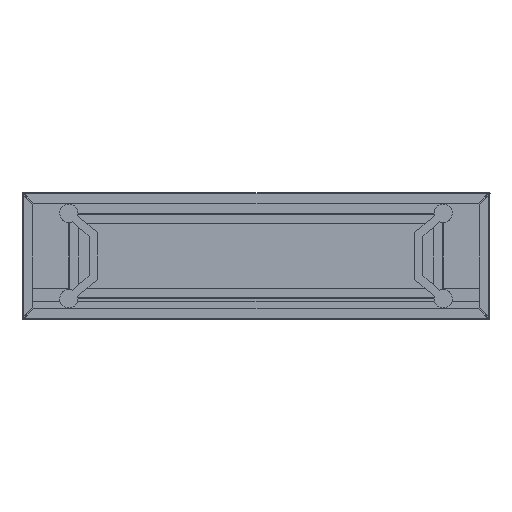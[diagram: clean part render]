
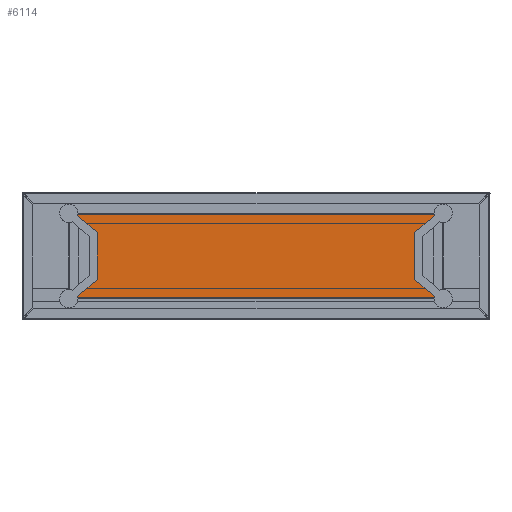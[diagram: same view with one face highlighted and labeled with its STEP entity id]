
A CAD part, front view. The second image highlights one B-rep face of the part: STEP entity #6114.
In plain terms, the highlighted planar face has unit normal (0, -1, 0).
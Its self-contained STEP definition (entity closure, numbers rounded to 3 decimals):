
#63 = CARTESIAN_POINT ( 'NONE',  ( -437.639, -1.25, -102.5 ) ) ;
#244 = VERTEX_POINT ( 'NONE', #7984 ) ;
#341 = AXIS2_PLACEMENT_3D ( 'NONE', #5365, #3338, #10846 ) ;
#376 = CARTESIAN_POINT ( 'NONE',  ( 436.044, -1.25, 97.426 ) ) ;
#518 = VECTOR ( 'NONE', #10209, 1000. ) ;
#521 = ORIENTED_EDGE ( 'NONE', *, *, #5999, .T. ) ;
#526 = CIRCLE ( 'NONE', #9690, 22.5 ) ;
#960 = AXIS2_PLACEMENT_3D ( 'NONE', #11637, #6217, #7896 ) ;
#1003 = LINE ( 'NONE', #11830, #9620 ) ;
#1026 = CARTESIAN_POINT ( 'NONE',  ( -460., -1.25, -105. ) ) ;
#1099 = VECTOR ( 'NONE', #9376, 1000. ) ;
#1402 = CARTESIAN_POINT ( 'NONE',  ( -390., -1.25, 57.4 ) ) ;
#1480 = CARTESIAN_POINT ( 'NONE',  ( -390., -1.25, -57.4 ) ) ;
#1555 = AXIS2_PLACEMENT_3D ( 'NONE', #9483, #5714, #7512 ) ;
#1576 = CIRCLE ( 'NONE', #10908, 22.5 ) ;
#1667 = VERTEX_POINT ( 'NONE', #2420 ) ;
#1679 = ORIENTED_EDGE ( 'NONE', *, *, #3749, .F. ) ;
#1763 = ORIENTED_EDGE ( 'NONE', *, *, #8523, .F. ) ;
#1814 = CARTESIAN_POINT ( 'NONE',  ( -460., -1.25, 105. ) ) ;
#1840 = EDGE_CURVE ( 'NONE', #10787, #9666, #7563, .T. ) ;
#1894 = VERTEX_POINT ( 'NONE', #9403 ) ;
#2010 = CARTESIAN_POINT ( 'NONE',  ( 390., -1.25, 46.007 ) ) ;
#2139 = LINE ( 'NONE', #2010, #1099 ) ;
#2405 = CARTESIAN_POINT ( 'NONE',  ( 438.228, -1.25, 99.324 ) ) ;
#2420 = CARTESIAN_POINT ( 'NONE',  ( 437.639, -1.25, -102.5 ) ) ;
#2469 = ORIENTED_EDGE ( 'NONE', *, *, #1840, .F. ) ;
#2603 = CARTESIAN_POINT ( 'NONE',  ( -438.228, -1.25, -99.324 ) ) ;
#2969 = VERTEX_POINT ( 'NONE', #63 ) ;
#3069 = DIRECTION ( 'NONE',  ( -0.755, 0., -0.656 ) ) ;
#3091 = LINE ( 'NONE', #10201, #11525 ) ;
#3186 = CARTESIAN_POINT ( 'NONE',  ( -438.228, -1.25, 99.324 ) ) ;
#3212 = CIRCLE ( 'NONE', #341, 22.5 ) ;
#3338 = DIRECTION ( 'NONE',  ( 0., -1., 0. ) ) ;
#3430 = DIRECTION ( 'NONE',  ( 0.755, 0., -0.656 ) ) ;
#3489 = EDGE_CURVE ( 'NONE', #244, #7123, #4009, .T. ) ;
#3652 = DIRECTION ( 'NONE',  ( -1., 0., 0. ) ) ;
#3748 = VECTOR ( 'NONE', #10138, 1000. ) ;
#3749 = EDGE_CURVE ( 'NONE', #7014, #5617, #7523, .T. ) ;
#3761 = CARTESIAN_POINT ( 'NONE',  ( -436.044, -1.25, -97.426 ) ) ;
#3791 = DIRECTION ( 'NONE',  ( 0.275, 0., 0.962 ) ) ;
#3856 = FACE_OUTER_BOUND ( 'NONE', #10284, .T. ) ;
#3909 = DIRECTION ( 'NONE',  ( 0., -1., 0. ) ) ;
#3915 = DIRECTION ( 'NONE',  ( 0., 1., 0. ) ) ;
#3933 = DIRECTION ( 'NONE',  ( 1., 0., 0. ) ) ;
#4009 = LINE ( 'NONE', #7660, #6672 ) ;
#4657 = LINE ( 'NONE', #3761, #518 ) ;
#5092 = EDGE_CURVE ( 'NONE', #11459, #7014, #4657, .T. ) ;
#5191 = CARTESIAN_POINT ( 'NONE',  ( 390., -1.25, -57.4 ) ) ;
#5365 = CARTESIAN_POINT ( 'NONE',  ( 460., -1.25, 105. ) ) ;
#5409 = ORIENTED_EDGE ( 'NONE', *, *, #3489, .T. ) ;
#5617 = VERTEX_POINT ( 'NONE', #1402 ) ;
#5663 = EDGE_CURVE ( 'NONE', #9184, #5617, #11607, .T. ) ;
#5714 = DIRECTION ( 'NONE',  ( 0., -1., 0. ) ) ;
#5999 = EDGE_CURVE ( 'NONE', #1667, #244, #8044, .T. ) ;
#6003 = CARTESIAN_POINT ( 'NONE',  ( 390., -1.25, 57.4 ) ) ;
#6114 = ADVANCED_FACE ( 'NONE', ( #3856 ), #10373, .T. ) ;
#6186 = CARTESIAN_POINT ( 'NONE',  ( -436.044, -1.25, 97.426 ) ) ;
#6217 = DIRECTION ( 'NONE',  ( 0., 1., 0. ) ) ;
#6648 = ORIENTED_EDGE ( 'NONE', *, *, #11436, .F. ) ;
#6672 = VECTOR ( 'NONE', #8553, 1000. ) ;
#7008 = EDGE_CURVE ( 'NONE', #9666, #7123, #2139, .T. ) ;
#7014 = VERTEX_POINT ( 'NONE', #1480 ) ;
#7031 = CARTESIAN_POINT ( 'NONE',  ( -437.639, -1.25, 102.5 ) ) ;
#7123 = VERTEX_POINT ( 'NONE', #5191 ) ;
#7280 = EDGE_CURVE ( 'NONE', #10761, #9184, #1576, .T. ) ;
#7327 = ORIENTED_EDGE ( 'NONE', *, *, #10694, .F. ) ;
#7512 = DIRECTION ( 'NONE',  ( -1., 0., 0. ) ) ;
#7523 = LINE ( 'NONE', #11089, #3748 ) ;
#7563 = LINE ( 'NONE', #376, #8719 ) ;
#7660 = CARTESIAN_POINT ( 'NONE',  ( 436.044, -1.25, -97.426 ) ) ;
#7896 = DIRECTION ( 'NONE',  ( -0.275, 0., 0.962 ) ) ;
#7984 = CARTESIAN_POINT ( 'NONE',  ( 438.228, -1.25, -99.324 ) ) ;
#8044 = CIRCLE ( 'NONE', #960, 22.5 ) ;
#8236 = EDGE_CURVE ( 'NONE', #1667, #2969, #1003, .T. ) ;
#8523 = EDGE_CURVE ( 'NONE', #10761, #1894, #3091, .T. ) ;
#8553 = DIRECTION ( 'NONE',  ( -0.755, 0., 0.656 ) ) ;
#8719 = VECTOR ( 'NONE', #3069, 1000. ) ;
#8917 = VECTOR ( 'NONE', #3430, 1000. ) ;
#9184 = VERTEX_POINT ( 'NONE', #3186 ) ;
#9376 = DIRECTION ( 'NONE',  ( 0., 0., -1. ) ) ;
#9403 = CARTESIAN_POINT ( 'NONE',  ( 437.639, -1.25, 102.5 ) ) ;
#9483 = CARTESIAN_POINT ( 'NONE',  ( 0., -1.25, 0. ) ) ;
#9620 = VECTOR ( 'NONE', #3652, 1000. ) ;
#9632 = ORIENTED_EDGE ( 'NONE', *, *, #7008, .F. ) ;
#9666 = VERTEX_POINT ( 'NONE', #6003 ) ;
#9690 = AXIS2_PLACEMENT_3D ( 'NONE', #1026, #3909, #3791 ) ;
#9967 = ORIENTED_EDGE ( 'NONE', *, *, #7280, .T. ) ;
#10019 = ORIENTED_EDGE ( 'NONE', *, *, #8236, .F. ) ;
#10138 = DIRECTION ( 'NONE',  ( 0., 0., 1. ) ) ;
#10201 = CARTESIAN_POINT ( 'NONE',  ( 457.5, -1.25, 102.5 ) ) ;
#10209 = DIRECTION ( 'NONE',  ( 0.755, 0., 0.656 ) ) ;
#10284 = EDGE_LOOP ( 'NONE', ( #10019, #521, #5409, #9632, #2469, #6648, #1763, #9967, #10680, #1679, #11613, #7327 ) ) ;
#10373 = PLANE ( 'NONE',  #1555 ) ;
#10680 = ORIENTED_EDGE ( 'NONE', *, *, #5663, .T. ) ;
#10694 = EDGE_CURVE ( 'NONE', #2969, #11459, #526, .T. ) ;
#10761 = VERTEX_POINT ( 'NONE', #7031 ) ;
#10787 = VERTEX_POINT ( 'NONE', #2405 ) ;
#10846 = DIRECTION ( 'NONE',  ( -0.275, 0., -0.962 ) ) ;
#10897 = DIRECTION ( 'NONE',  ( 0.275, 0., -0.962 ) ) ;
#10908 = AXIS2_PLACEMENT_3D ( 'NONE', #1814, #3915, #10897 ) ;
#11089 = CARTESIAN_POINT ( 'NONE',  ( -390., -1.25, -46.007 ) ) ;
#11436 = EDGE_CURVE ( 'NONE', #1894, #10787, #3212, .T. ) ;
#11459 = VERTEX_POINT ( 'NONE', #2603 ) ;
#11525 = VECTOR ( 'NONE', #3933, 1000. ) ;
#11607 = LINE ( 'NONE', #6186, #8917 ) ;
#11613 = ORIENTED_EDGE ( 'NONE', *, *, #5092, .F. ) ;
#11637 = CARTESIAN_POINT ( 'NONE',  ( 460., -1.25, -105. ) ) ;
#11830 = CARTESIAN_POINT ( 'NONE',  ( -457.5, -1.25, -102.5 ) ) ;
